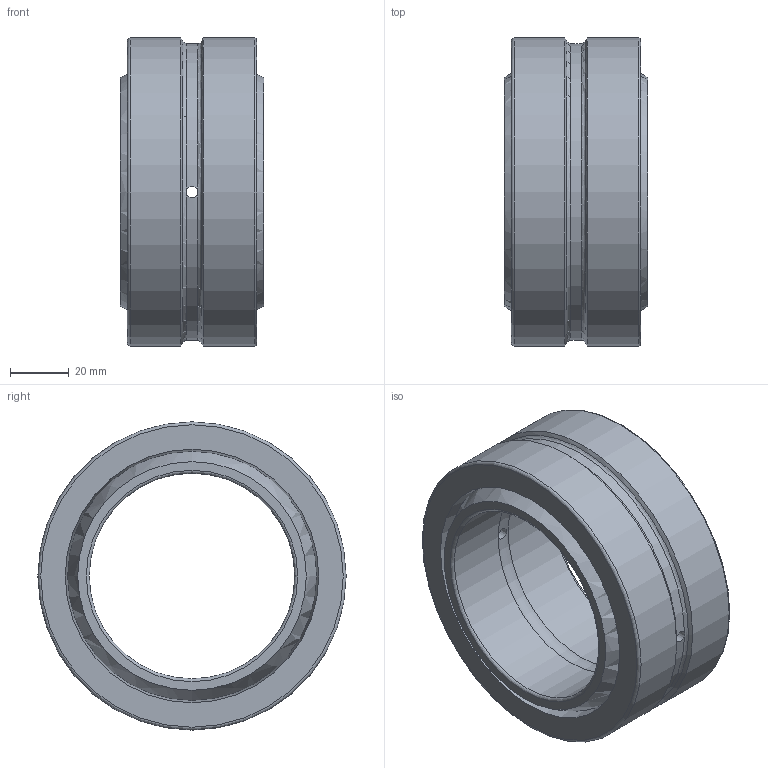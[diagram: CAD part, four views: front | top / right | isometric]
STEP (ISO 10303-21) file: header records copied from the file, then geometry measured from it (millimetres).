
FILE_DESCRIPTION(/* description */ (''),/* implementation_level */ '2;1');
FILE_NAME(/* name */ 'D:\moje\parametrické\GE--\GE--_\GE70E.stp',/* time_stamp */ '2016-08-17T14:00:48+02:00',/* author */ ('OUBALASKO'),/* organization */ (''),/* preprocessor_version */ 'ST-DEVELOPER v15.6',/* originating_system */ 'Autodesk Inventor 2015',/* authorisation */ '');
FILE_SCHEMA (('AUTOMOTIVE_DESIGN { 1 0 10303 214 3 1 1 }'));
Length unit declared in the file: millimetre
Products named in the file (3): GE70E-02; GE70E-01; GE70E
Assembly tree (2 placements, depth 2):
  GE70E
    GE70E-02
    GE70E-01
Bounding box: 49 x 105 x 105 mm (x, y, z)
Volume: 208818.6 mm3; surface area: 59945.2 mm2
Topology: 2 solids, 2 shells, 29 faces, 75 edges, 48 vertices
Faces by surface type: torus 10, cylinder 10, plane 4, sphere 3, cone 2
Full cylindrical faces by diameter (mm): 4 x4, 70 x2, 105 x2
Entity records: 1015 total; most frequent: CARTESIAN_POINT 384, DIRECTION 124, ORIENTED_EDGE 84, EDGE_LOOP 62, AXIS2_PLACEMENT_3D 62, EDGE_CURVE 42, VERTEX_POINT 38, FACE_BOUND 34
